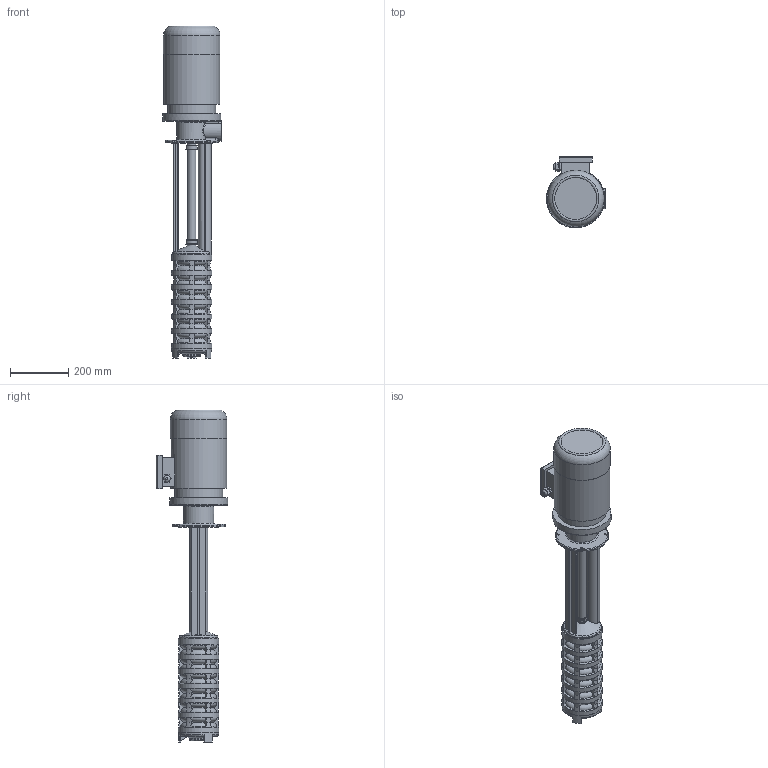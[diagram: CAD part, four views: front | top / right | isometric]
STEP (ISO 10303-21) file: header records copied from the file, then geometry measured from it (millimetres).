
FILE_DESCRIPTION(/* description */ ('Unknown'),/* implementation_level */ '2;1');
FILE_NAME(/* name */ 'gp7-740',/* time_stamp */ '2025-06-17T14:05:42+03:00',/* author */ ('Unknown'),/* organization */ ('Unknown'),/* preprocessor_version */ 'ST-DEVELOPER v16.7',/* originating_system */ 'DEX',/* authorisation */ $);
FILE_SCHEMA (('TECHNICAL_DATA_PACKAGING','AUTOMOTIVE_DESIGN {1 0 10303 214 3 1 1}'));
Length unit declared in the file: millimetre
Products named in the file (1): gp7-740
Bounding box: 202 x 245.5 x 1140.49 mm (x, y, z)
Volume: 16730060.3 mm3; surface area: 757675.6 mm2
Topology: 1 solids, 1 shells, 564 faces, 1528 edges, 997 vertices
Faces by surface type: plane 182, cylinder 108, cone 101, torus 89, bspline 84
Full cylindrical faces by diameter (mm): 17 x1, 21.5 x1, 29 x3, 33 x2, 35 x2, 39 x2, 40.5 x2, 45 x1, 47 x1, 60 x1, 137 x1, 139 x7, 140 x1, 165 x1, 192.353 x1, 194 x1, 200 x1
Entity records: 20327 total; most frequent: CARTESIAN_POINT 6610, ORIENTED_EDGE 2886, DIRECTION 2785, EDGE_CURVE 1443, AXIS2_PLACEMENT_3D 1068, VERTEX_POINT 975, EDGE_LOOP 662, FACE_BOUND 662
